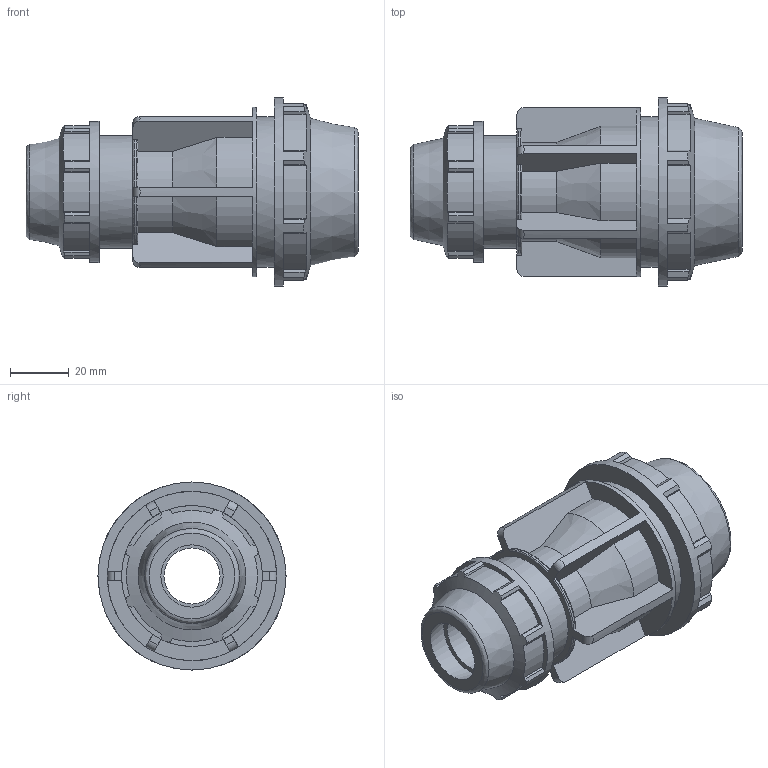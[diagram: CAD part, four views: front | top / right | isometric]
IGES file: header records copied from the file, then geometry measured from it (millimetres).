
Global section: file name: 0711M0010005.ipt; native system: Autodesk Inventor 2019; preprocessor: unknown; author: KIM; date: 20210826.124654; units: inch
Bounding box: 113 x 64.01 x 64.01 mm (x, y, z)
Volume: 115390.5 mm3; surface area: 37650.4 mm2
Topology: 1 solids, 1 shells, 218 faces, 641 edges, 432 vertices
Faces by surface type: plane 143, cylinder 45, revolution 20, cone 10
Full cylindrical faces by diameter (mm): 38.405 x1, 48.006 x1, 51.206 x1, 57.607 x1, 64.008 x1
